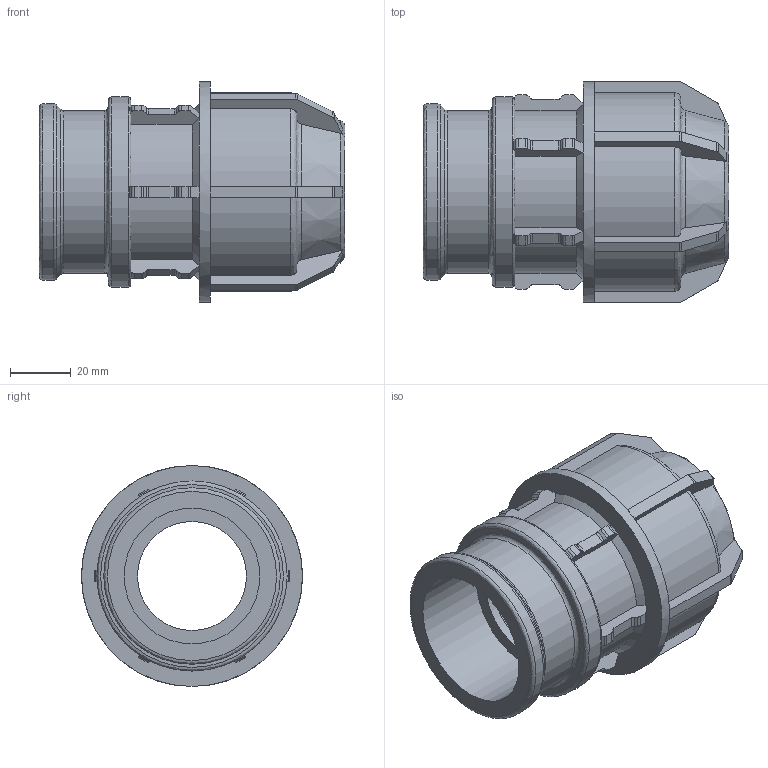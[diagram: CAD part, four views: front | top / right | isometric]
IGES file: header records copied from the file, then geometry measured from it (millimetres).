
Global section: file name: 140300040015.ipt; native system: Autodesk Inventor 2015; preprocessor: unknown; author: KIM; date: 20180409.131012; units: millimetre
Bounding box: 101 x 73 x 73 mm (x, y, z)
Volume: 145033.6 mm3; surface area: 42333.5 mm2
Topology: 1 solids, 1 shells, 259 faces, 731 edges, 473 vertices
Faces by surface type: plane 158, cylinder 52, revolution 36, cone 13
Full cylindrical faces by diameter (mm): 53.814 x1, 58.298 x1, 62.783 x1, 73 x1
